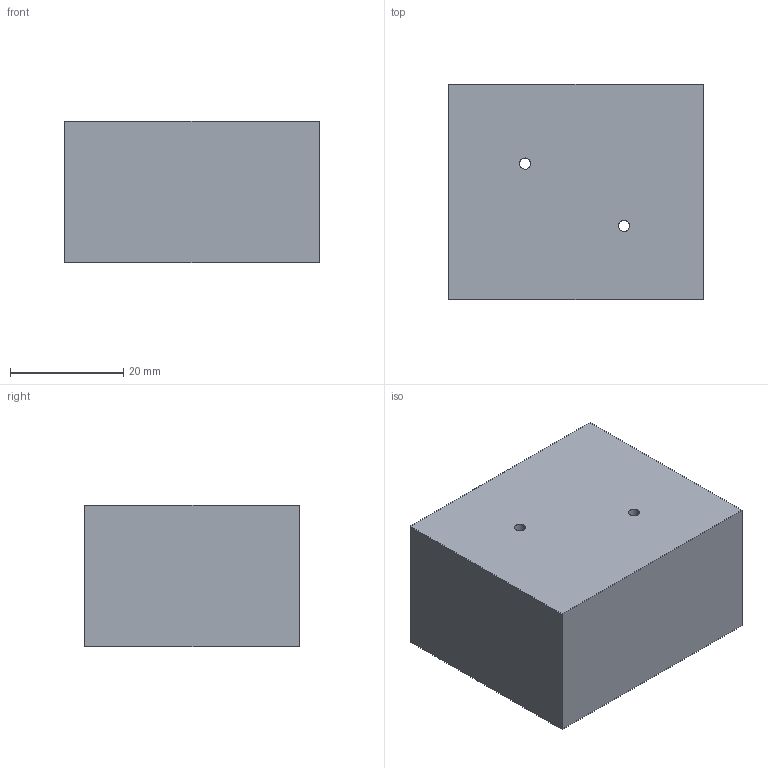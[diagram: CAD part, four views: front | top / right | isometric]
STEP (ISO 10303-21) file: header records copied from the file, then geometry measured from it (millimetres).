
FILE_DESCRIPTION (( 'STEP AP203' ), '1' );
FILE_NAME ('FT60ES06.STEP', '2026-06-26T01:14:20', ( 'USER' ), ( '' ), 'SwSTEP 2.0', 'SolidWorks 2023', '' );
FILE_SCHEMA (( 'CONFIG_CONTROL_DESIGN' ));
Length unit declared in the file: millimetre
Products named in the file (1): FT60ES06
Bounding box: 45 x 38 x 25 mm (x, y, z)
Volume: 33307.4 mm3; surface area: 9731.6 mm2
Topology: 1 solids, 1 shells, 40 faces, 95 edges, 55 vertices
Faces by surface type: cylinder 22, plane 10, cone 8
Entity records: 1338 total; most frequent: CARTESIAN_POINT 344, DIRECTION 192, ORIENTED_EDGE 190, EDGE_CURVE 95, AXIS2_PLACEMENT_3D 75, VERTEX_POINT 55, EDGE_LOOP 48, LINE 42
